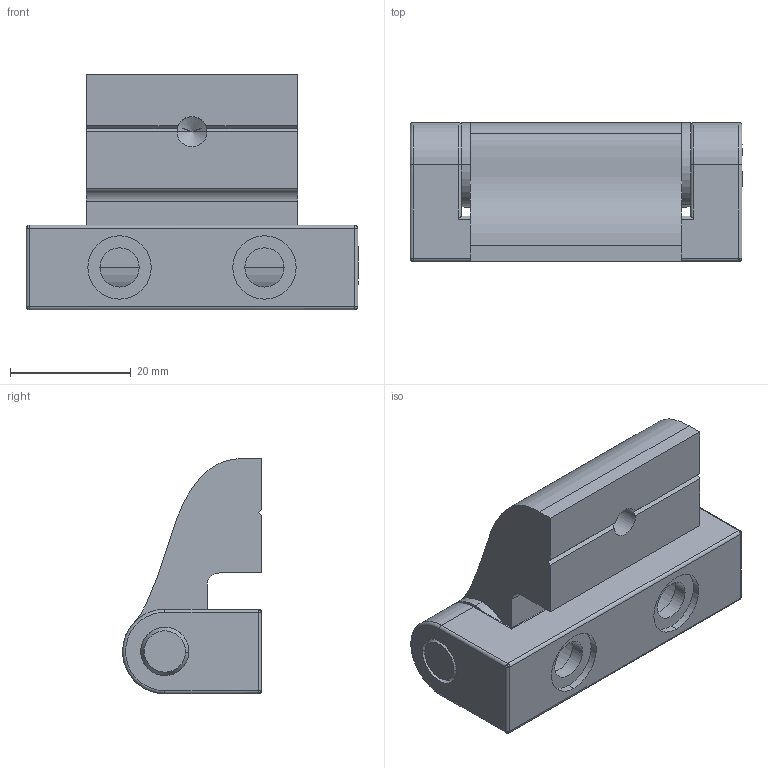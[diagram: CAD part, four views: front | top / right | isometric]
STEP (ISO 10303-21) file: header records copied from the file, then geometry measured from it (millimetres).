
FILE_DESCRIPTION (( 'STEP AP214' ), '1' );
FILE_NAME ('013.100.027.STEP', '2022-05-03T12:27:28', ( '' ), ( '' ), 'SwSTEP 2.0', 'SolidWorks 2021', '' );
FILE_SCHEMA (( 'AUTOMOTIVE_DESIGN' ));
Length unit declared in the file: millimetre
Products named in the file (5): 013.000.001A-L; boccola per 013.100.027; 013.000.001B; 013.100.027; 013.000.001C
Assembly tree (5 placements, depth 2):
  013.100.027
    013.000.001A-L
    013.000.001B
    013.000.001C
    boccola per 013.100.027  x2
Bounding box: 55 x 23 x 39 mm (x, y, z)
Volume: 24384.1 mm3; surface area: 13456.7 mm2
Topology: 5 solids, 5 shells, 255 faces, 633 edges, 392 vertices
Faces by surface type: plane 91, cylinder 74, bspline 61, cone 16, sphere 8, torus 5
Entity records: 8784 total; most frequent: CARTESIAN_POINT 3249, ORIENTED_EDGE 1226, DIRECTION 952, EDGE_CURVE 613, AXIS2_PLACEMENT_3D 427, VERTEX_POINT 380, B_SPLINE_CURVE_WITH_KNOTS 273, EDGE_LOOP 263
